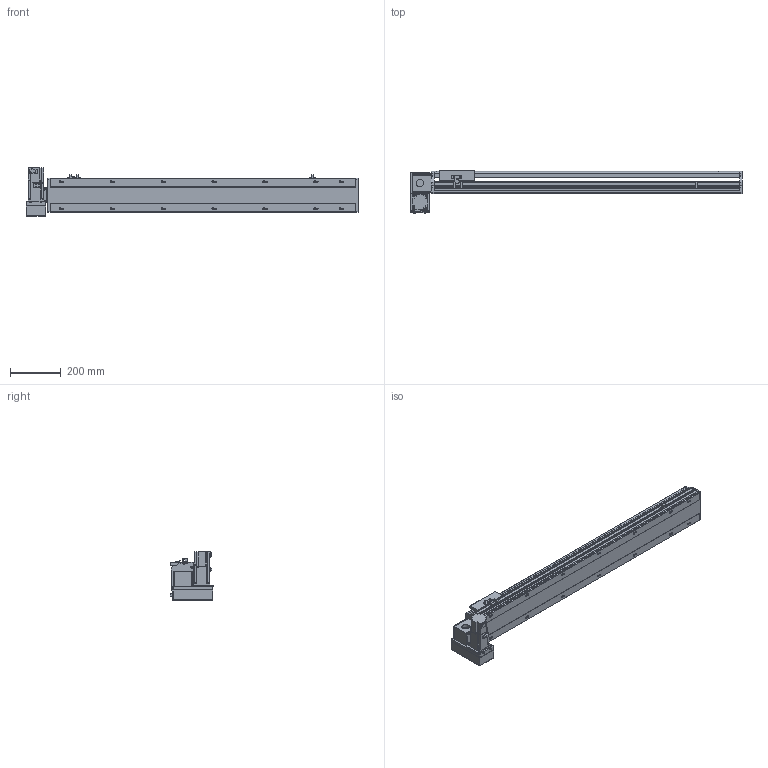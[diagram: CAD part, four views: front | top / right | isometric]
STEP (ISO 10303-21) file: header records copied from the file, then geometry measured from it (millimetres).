
FILE_DESCRIPTION(/* description */ ('STEP AP214'),/* implementation_level */ '2;1');
FILE_NAME(/* name */ 'PBS140S-P40-S950-LD-T40-C1-N(0)',/* time_stamp */ '2022-06-09T02:24:56+02:00',/* author */ ('License CC BY-ND 4.0'),/* organization */ ('CADENAS'),/* preprocessor_version */ 'ST-DEVELOPER v18.102',/* originating_system */ 'PARTsolutions',/* authorisation */ ' ');
FILE_SCHEMA (('AUTOMOTIVE_DESIGN {1 0 10303 214 3 1 1}'));
Length unit declared in the file: millimetre
Products named in the file (7): PBS140S-P40-S950-LD-T40-C1-N(0); PBS140S_sensor; PBS140S_plant; PBS140S_sliser; T40-p1; PBS140ST-LD_motors; PBS140S-S950()_body
Assembly tree (8 placements, depth 2):
  PBS140S-P40-S950-LD-T40-C1-N(0)
    PBS140S_sensor  x3
    PBS140S_plant
    PBS140S_sliser
    T40-p1
    PBS140ST-LD_motors
    PBS140S-S950()_body
Bounding box: 1304 x 172.5 x 189.7 mm (x, y, z)
Volume: 6811223.3 mm3; surface area: 1182064.2 mm2
Topology: 8 solids, 8 shells, 1083 faces, 2871 edges, 1879 vertices
Faces by surface type: plane 696, cylinder 337, cone 40, sphere 8, torus 2
Full cylindrical faces by diameter (mm): 3.242 x4, 4 x2, 4.134 x4, 4.4 x8, 4.5 x2, 4.8 x4, 4.917 x22, 5.5 x7, 6 x2, 7 x16, 7.5 x8, 8 x12, 8.5 x4, 10.5 x14, 14 x1, 30 x2, 50 x2
Entity records: 31038 total; most frequent: CARTESIAN_POINT 5704, DIRECTION 5278, ORIENTED_EDGE 5002, EDGE_CURVE 2501, AXIS2_PLACEMENT_3D 1829, VERTEX_POINT 1729, LINE 1620, VECTOR 1620
